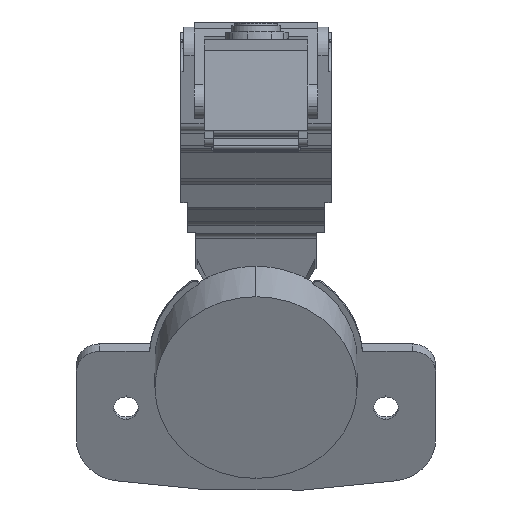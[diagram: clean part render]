
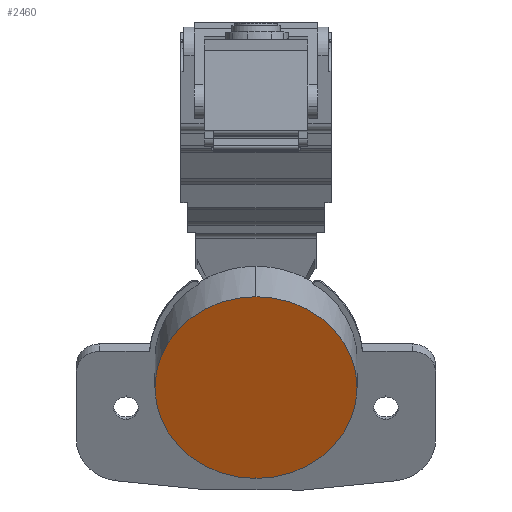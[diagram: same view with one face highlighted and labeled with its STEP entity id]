
A CAD part, left-side view. The second image highlights one B-rep face of the part: STEP entity #2460.
In plain terms, the highlighted planar face has unit normal (-0.899, 0, -0.438).
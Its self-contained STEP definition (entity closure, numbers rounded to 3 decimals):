
#43 = DIRECTION ( 'NONE',  ( -0.438, 0., 0.899 ) ) ;
#398 = VERTEX_POINT ( 'NONE', #9613 ) ;
#1518 = CARTESIAN_POINT ( 'NONE',  ( 97.008, 0., -20.636 ) ) ;
#1752 = CARTESIAN_POINT ( 'NONE',  ( 104.669, 0., -36.37 ) ) ;
#1880 = CARTESIAN_POINT ( 'NONE',  ( 97.008, 0., -20.636 ) ) ;
#2399 = DIRECTION ( 'NONE',  ( -0.438, 0., 0.899 ) ) ;
#2460 = ADVANCED_FACE ( 'NONE', ( #3620 ), #10304, .T. ) ;
#2482 = VERTEX_POINT ( 'NONE', #1752 ) ;
#2491 = AXIS2_PLACEMENT_3D ( 'NONE', #1518, #7519, #2399 ) ;
#2755 = DIRECTION ( 'NONE',  ( -0.438, 0., 0.899 ) ) ;
#3104 = AXIS2_PLACEMENT_3D ( 'NONE', #1880, #7857, #2755 ) ;
#3620 = FACE_OUTER_BOUND ( 'NONE', #9284, .T. ) ;
#5206 = DIRECTION ( 'NONE',  ( -0.899, 0., -0.438 ) ) ;
#6748 = EDGE_CURVE ( 'NONE', #2482, #398, #7215, .T. ) ;
#7031 = CIRCLE ( 'NONE', #2491, 17.5 ) ;
#7215 = CIRCLE ( 'NONE', #3104, 17.5 ) ;
#7519 = DIRECTION ( 'NONE',  ( -0.899, 0., -0.438 ) ) ;
#7857 = DIRECTION ( 'NONE',  ( -0.899, 0., -0.438 ) ) ;
#8377 = ORIENTED_EDGE ( 'NONE', *, *, #6748, .T. ) ;
#8577 = CARTESIAN_POINT ( 'NONE',  ( 97.008, 0., -20.636 ) ) ;
#8634 = ORIENTED_EDGE ( 'NONE', *, *, #9302, .T. ) ;
#9284 = EDGE_LOOP ( 'NONE', ( #8634, #8377 ) ) ;
#9302 = EDGE_CURVE ( 'NONE', #398, #2482, #7031, .T. ) ;
#9613 = CARTESIAN_POINT ( 'NONE',  ( 89.346, 0., -4.903 ) ) ;
#10304 = PLANE ( 'NONE',  #11070 ) ;
#11070 = AXIS2_PLACEMENT_3D ( 'NONE', #8577, #5206, #43 ) ;
